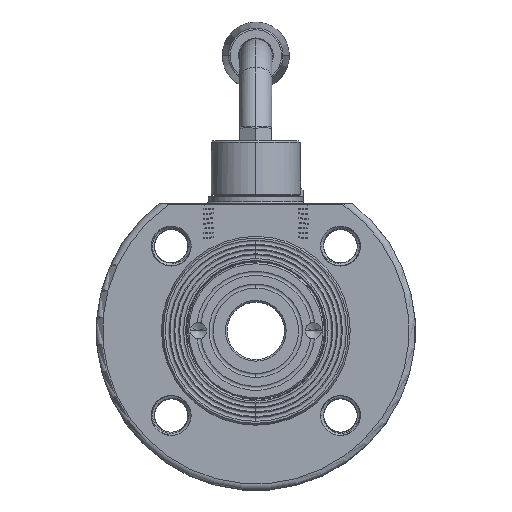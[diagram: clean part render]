
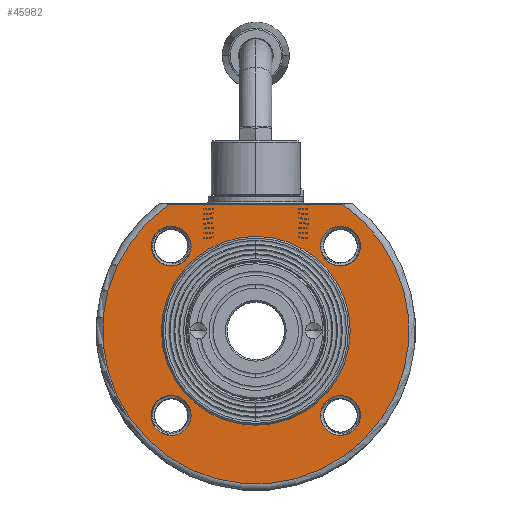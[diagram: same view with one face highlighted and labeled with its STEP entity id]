
A CAD part, top view. The second image highlights one B-rep face of the part: STEP entity #45982.
In plain terms, the highlighted planar face has unit normal (0, 0, 1).
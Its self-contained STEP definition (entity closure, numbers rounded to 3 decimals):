
#1248=DIRECTION('',(1.,0.,0.));
#1249=VECTOR('',#1248,54.544);
#1250=CARTESIAN_POINT('',(-27.272,39.5,18.));
#1251=LINE('',#1250,#1249);
#1282=CARTESIAN_POINT('',(0.,0.,18.));
#1283=DIRECTION('',(0.,0.,1.));
#1284=DIRECTION('',(1.,0.,0.));
#1285=AXIS2_PLACEMENT_3D('',#1282,#1283,#1284);
#1290=CARTESIAN_POINT('',(0.,0.,18.));
#1291=DIRECTION('',(0.,0.,-1.));
#1292=DIRECTION('',(1.,0.,0.));
#1293=AXIS2_PLACEMENT_3D('',#1290,#1291,#1292);
#4849=CARTESIAN_POINT('',(0.,0.,18.));
#4850=DIRECTION('',(0.,0.,1.));
#4851=DIRECTION('',(-0.568,0.823,0.));
#4852=AXIS2_PLACEMENT_3D('',#4849,#4850,#4851);
#10140=CARTESIAN_POINT('',(26.517,26.517,18.));
#10141=DIRECTION('',(0.,0.,-1.));
#10142=DIRECTION('',(1.,0.,0.));
#10143=AXIS2_PLACEMENT_3D('',#10140,#10141,#10142);
#10954=CARTESIAN_POINT('',(26.517,26.517,18.));
#10955=DIRECTION('',(0.,0.,-1.));
#10956=DIRECTION('',(-1.,0.,0.));
#10957=AXIS2_PLACEMENT_3D('',#10954,#10955,#10956);
#13333=CARTESIAN_POINT('',(-26.517,26.517,18.));
#13334=DIRECTION('',(0.,0.,-1.));
#13335=DIRECTION('',(1.,0.,0.));
#13336=AXIS2_PLACEMENT_3D('',#13333,#13334,#13335);
#13396=CARTESIAN_POINT('',(-26.517,26.517,18.));
#13397=DIRECTION('',(0.,0.,-1.));
#13398=DIRECTION('',(-1.,0.,0.));
#13399=AXIS2_PLACEMENT_3D('',#13396,#13397,#13398);
#18805=CARTESIAN_POINT('',(-26.517,-26.517,18.));
#18806=DIRECTION('',(0.,0.,-1.));
#18807=DIRECTION('',(-1.,0.,0.));
#18808=AXIS2_PLACEMENT_3D('',#18805,#18806,#18807);
#18861=CARTESIAN_POINT('',(-26.517,-26.517,18.));
#18862=DIRECTION('',(0.,0.,-1.));
#18863=DIRECTION('',(1.,0.,0.));
#18864=AXIS2_PLACEMENT_3D('',#18861,#18862,#18863);
#22753=CARTESIAN_POINT('',(26.517,-26.517,18.));
#22754=DIRECTION('',(0.,0.,-1.));
#22755=DIRECTION('',(-1.,0.,0.));
#22756=AXIS2_PLACEMENT_3D('',#22753,#22754,#22755);
#22816=CARTESIAN_POINT('',(26.517,-26.517,18.));
#22817=DIRECTION('',(0.,0.,-1.));
#22818=DIRECTION('',(1.,0.,0.));
#22819=AXIS2_PLACEMENT_3D('',#22816,#22817,#22818);
#42245=CARTESIAN_POINT('',(29.577,0.,18.));
#42247=VERTEX_POINT('',#42245);
#42253=CARTESIAN_POINT('',(-29.577,0.,18.));
#42255=VERTEX_POINT('',#42253);
#42314=CARTESIAN_POINT('',(-27.272,39.5,18.));
#42315=CARTESIAN_POINT('',(27.272,39.5,18.));
#42316=VERTEX_POINT('',#42314);
#42317=VERTEX_POINT('',#42315);
#42330=CARTESIAN_POINT('',(20.267,26.517,18.));
#42331=CARTESIAN_POINT('',(32.767,26.517,18.));
#42332=VERTEX_POINT('',#42330);
#42333=VERTEX_POINT('',#42331);
#42334=CARTESIAN_POINT('',(-20.267,26.517,18.));
#42335=CARTESIAN_POINT('',(-32.767,26.517,18.));
#42336=VERTEX_POINT('',#42334);
#42337=VERTEX_POINT('',#42335);
#42338=CARTESIAN_POINT('',(-20.267,-26.517,18.));
#42339=CARTESIAN_POINT('',(-32.767,-26.517,18.));
#42340=VERTEX_POINT('',#42338);
#42341=VERTEX_POINT('',#42339);
#42342=CARTESIAN_POINT('',(32.767,-26.517,18.));
#42343=CARTESIAN_POINT('',(20.267,-26.517,18.));
#42344=VERTEX_POINT('',#42342);
#42345=VERTEX_POINT('',#42343);
#45942=CARTESIAN_POINT('',(0.,0.,18.));
#45943=DIRECTION('',(0.,0.,1.));
#45944=DIRECTION('',(-1.,0.,0.));
#45945=AXIS2_PLACEMENT_3D('',#45942,#45943,#45944);
#45946=PLANE('',#45945);
#45947=ORIENTED_EDGE('',*,*,#45932,.T.);
#45949=ORIENTED_EDGE('',*,*,#45948,.F.);
#45950=EDGE_LOOP('',(#45947,#45949));
#45951=FACE_OUTER_BOUND('',#45950,.F.);
#45953=ORIENTED_EDGE('',*,*,#45952,.T.);
#45955=ORIENTED_EDGE('',*,*,#45954,.F.);
#45956=EDGE_LOOP('',(#45953,#45955));
#45957=FACE_BOUND('',#45956,.F.);
#45959=ORIENTED_EDGE('',*,*,#45958,.F.);
#45961=ORIENTED_EDGE('',*,*,#45960,.F.);
#45962=EDGE_LOOP('',(#45959,#45961));
#45963=FACE_BOUND('',#45962,.F.);
#45965=ORIENTED_EDGE('',*,*,#45964,.F.);
#45967=ORIENTED_EDGE('',*,*,#45966,.F.);
#45968=EDGE_LOOP('',(#45965,#45967));
#45969=FACE_BOUND('',#45968,.F.);
#45971=ORIENTED_EDGE('',*,*,#45970,.F.);
#45973=ORIENTED_EDGE('',*,*,#45972,.F.);
#45974=EDGE_LOOP('',(#45971,#45973));
#45975=FACE_BOUND('',#45974,.F.);
#45977=ORIENTED_EDGE('',*,*,#45976,.F.);
#45979=ORIENTED_EDGE('',*,*,#45978,.F.);
#45980=EDGE_LOOP('',(#45977,#45979));
#45981=FACE_BOUND('',#45980,.F.);
#45982=ADVANCED_FACE('',(#45951,#45957,#45963,#45969,#45975,#45981),#45946,.T.);
#1286=CIRCLE('',#1285,29.577);
#1294=CIRCLE('',#1293,29.577);
#4853=CIRCLE('',#4852,48.);
#10144=CIRCLE('',#10143,6.25);
#10958=CIRCLE('',#10957,6.25);
#13337=CIRCLE('',#13336,6.25);
#13400=CIRCLE('',#13399,6.25);
#18809=CIRCLE('',#18808,6.25);
#18865=CIRCLE('',#18864,6.25);
#22757=CIRCLE('',#22756,6.25);
#22820=CIRCLE('',#22819,6.25);
#45932=EDGE_CURVE('',#42316,#42317,#1251,.T.);
#45948=EDGE_CURVE('',#42316,#42317,#4853,.T.);
#45952=EDGE_CURVE('',#42247,#42255,#1286,.T.);
#45954=EDGE_CURVE('',#42247,#42255,#1294,.T.);
#45958=EDGE_CURVE('',#42332,#42333,#10958,.T.);
#45960=EDGE_CURVE('',#42333,#42332,#10144,.T.);
#45964=EDGE_CURVE('',#42337,#42336,#13400,.T.);
#45966=EDGE_CURVE('',#42336,#42337,#13337,.T.);
#45970=EDGE_CURVE('',#42341,#42340,#18809,.T.);
#45972=EDGE_CURVE('',#42340,#42341,#18865,.T.);
#45976=EDGE_CURVE('',#42345,#42344,#22757,.T.);
#45978=EDGE_CURVE('',#42344,#42345,#22820,.T.);
